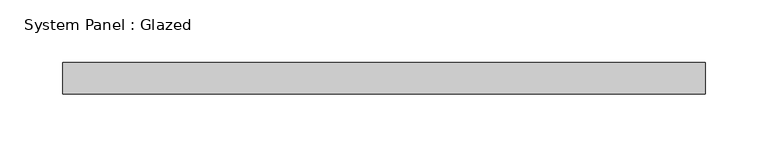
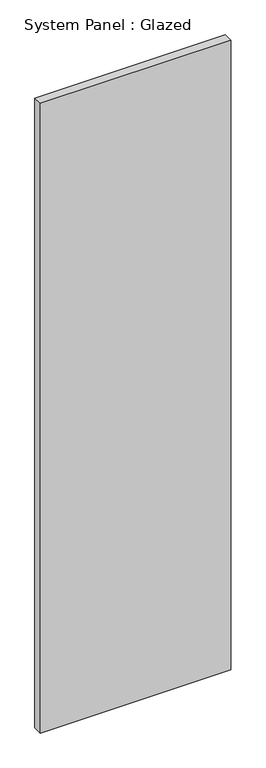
"""IFC4 building model written with IfcOpenShell, lengths in millimetres: plate geometry, System Panel : Glazed."""

from ifc_helpers import new_model, si_unit, origin, origin_with_axes, place, context, project, spatial, polyline, outline, extrude, source, transform, mapped, element, save


def system_panel_glazed_6cb61a0e(model_context):
    return source(origin(), model_context, "Body", "SweptSolid", [
        extrude(outline(polyline([(257.175, 19.05), (-257.175, 19.05), (-257.175, 44.45), (257.175, 44.45), (257.175, 19.05)])), origin_with_axes(), (0.0, 0.0, 1.0), 1797.05),
    ])


if __name__ == "__main__":
    model = new_model("IFC4")
    model_context = context("Model", 3, world=origin())
    ifc_project = project(units=[si_unit("LENGTHUNIT", "METRE", prefix="MILLI")], contexts=[model_context])
    site = spatial("IfcSite", under=ifc_project)
    building = spatial("IfcBuilding", under=site)
    placement = place(None, origin())
    system_panel_glazed_shape = system_panel_glazed_6cb61a0e(model_context)
    element("IfcPlate", 1, ObjectType="System Panel : Glazed", at=placement, inside=building, context=model_context, shape_type="MappedRepresentation", body=[
        mapped(system_panel_glazed_shape, transform((0.0, 0.0, 0.0), x_axis=(1.0, 0.0, 0.0), y_axis=(0.0, 1.0, 0.0), z_axis=(0.0, 0.0, 1.0))),
    ])
    save(model, "model.ifc")
